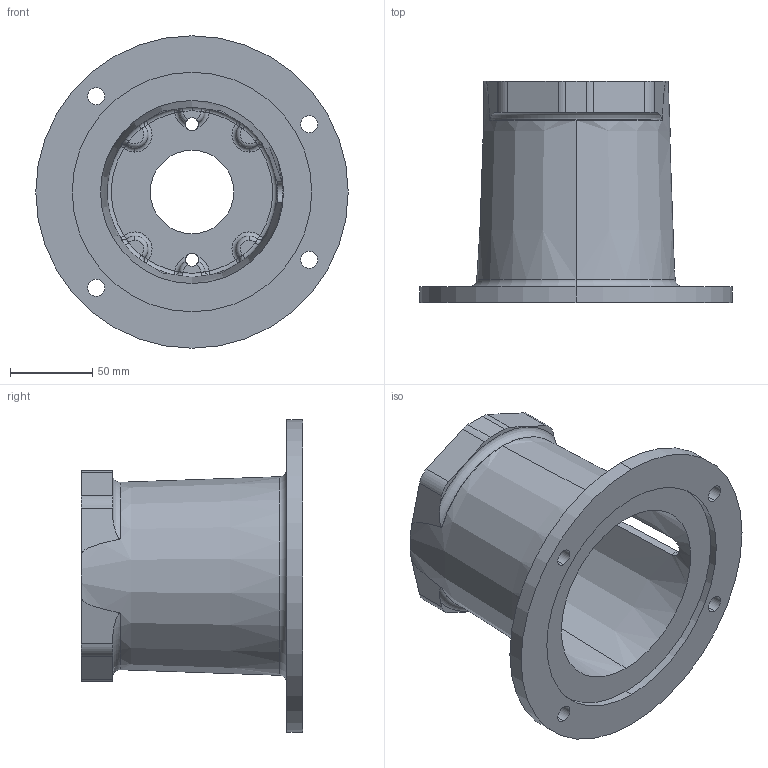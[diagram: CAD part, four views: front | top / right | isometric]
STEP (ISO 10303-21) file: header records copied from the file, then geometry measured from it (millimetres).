
FILE_DESCRIPTION (( 'STEP AP203' ), '1' );
FILE_NAME ('E575502AA.STEP', '2014-11-03T15:34:35', ( '' ), ( '' ), 'SwSTEP 2.0', 'SolidWorks 2014', '' );
FILE_SCHEMA (( 'CONFIG_CONTROL_DESIGN' ));
Length unit declared in the file: inch
Products named in the file (1): E575502AA
Bounding box: 190.5 x 134.87 x 190.5 mm (x, y, z)
Volume: 480828.7 mm3; surface area: 147950.3 mm2
Topology: 1 solids, 1 shells, 164 faces, 420 edges, 247 vertices
Faces by surface type: torus 51, cylinder 28, plane 25, sphere 24, bspline 24, cone 12
Entity records: 6689 total; most frequent: CARTESIAN_POINT 2728, DIRECTION 868, ORIENTED_EDGE 816, EDGE_CURVE 408, AXIS2_PLACEMENT_3D 403, CIRCLE 262, VERTEX_POINT 247, EDGE_LOOP 181
